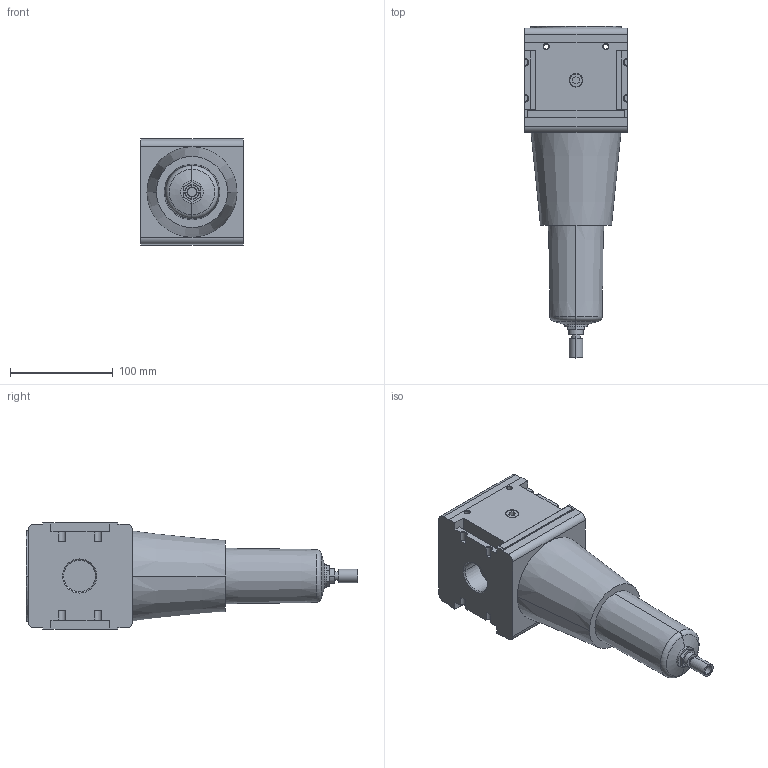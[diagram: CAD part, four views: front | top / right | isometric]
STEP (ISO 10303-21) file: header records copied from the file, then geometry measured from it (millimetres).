
FILE_DESCRIPTION((''),'2;1');
FILE_NAME('0821303820_ASM','2019-11-29T',('GIO1HC'),(''),'CREO PARAMETRIC BY PTC INC, 2016260','CREO PARAMETRIC BY PTC INC, 2016260','');
FILE_SCHEMA(('CONFIG_CONTROL_DESIGN'));
Length unit declared in the file: millimetre
Products named in the file (3): 0821303820-A; NL6-RESERVOIR-PC-AUTO; 0821303820_ASM
Assembly tree (2 placements, depth 2):
  0821303820_ASM
    0821303820-A
    NL6-RESERVOIR-PC-AUTO
Bounding box: 100 x 322.5 x 103.4 mm (x, y, z)
Volume: 1629555.1 mm3; surface area: 113899.5 mm2
Topology: 2 solids, 2 shells, 167 faces, 420 edges, 272 vertices
Faces by surface type: plane 89, cylinder 44, cone 28, torus 6
Entity records: 5109 total; most frequent: DIRECTION 894, CARTESIAN_POINT 864, ORIENTED_EDGE 840, EDGE_CURVE 420, AXIS2_PLACEMENT_3D 302, VECTOR 290, LINE 290, VERTEX_POINT 272
